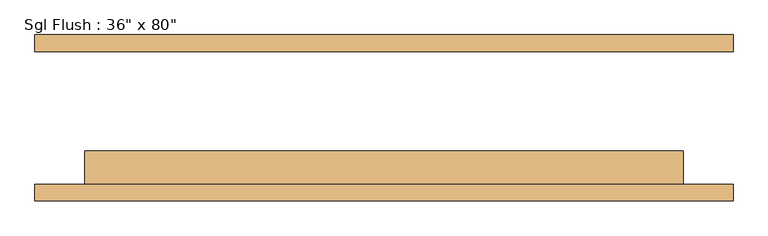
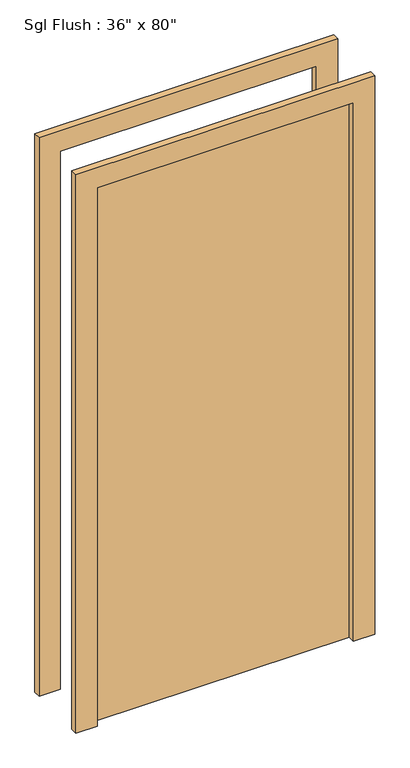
"""IFC4 building model written with IfcOpenShell, lengths in millimetres: door geometry."""

from ifc_helpers import new_model, si_unit, frame, origin, origin_with_axes, place, context, project, spatial, polyline, outline, extrude, source, transform, mapped, element, save


def door_09f6fe45(model_context):
    return source(origin(), model_context, "Body", "SweptSolid", [
        extrude(outline(polyline([(2108.2, -533.4), (0.0, -533.4), (0.0, -457.2), (2032.0, -457.2), (2032.0, 457.2), (0.0, 457.2), (0.0, 533.4), (2108.2, 533.4), (2108.2, -533.4)])), frame((0.0, -127.0, 0.0), z_axis=(0.0, 1.0, 0.0), x_axis=(0.0, 0.0, 1.0)), (0.0, 0.0, 1.0), 25.4),
        extrude(outline(polyline([(2108.2, 533.4), (2108.2, -533.4), (0.0, -533.4), (0.0, -457.2), (2032.0, -457.2), (2032.0, 457.2), (0.0, 457.2), (0.0, 533.4), (2108.2, 533.4)])), frame((0.0, 101.6, 0.0), z_axis=(0.0, 1.0, 0.0), x_axis=(0.0, 0.0, 1.0)), (0.0, 0.0, 1.0), 25.4),
        extrude(outline(polyline([(457.2, -50.8), (457.2, -101.6), (-457.2, -101.6), (-457.2, -50.8), (457.2, -50.8)])), origin_with_axes(), (0.0, 0.0, 1.0), 2032.0),
    ])


if __name__ == "__main__":
    model = new_model("IFC4")
    model_context = context("Model", 3, world=origin())
    ifc_project = project(units=[si_unit("LENGTHUNIT", "METRE", prefix="MILLI")], contexts=[model_context])
    site = spatial("IfcSite", under=ifc_project)
    building = spatial("IfcBuilding", under=site)
    placement = place(None, origin())
    door_shape = door_09f6fe45(model_context)
    element("IfcDoor", 1, ObjectType="Sgl Flush : 36\" x 80\"", at=placement, inside=building, context=model_context, shape_type="MappedRepresentation", body=[
        mapped(door_shape, transform((0.0, 0.0, 0.0), x_axis=(1.0, 0.0, 0.0), y_axis=(0.0, 1.0, 0.0), z_axis=(0.0, 0.0, 1.0))),
    ])
    save(model, "model.ifc")
